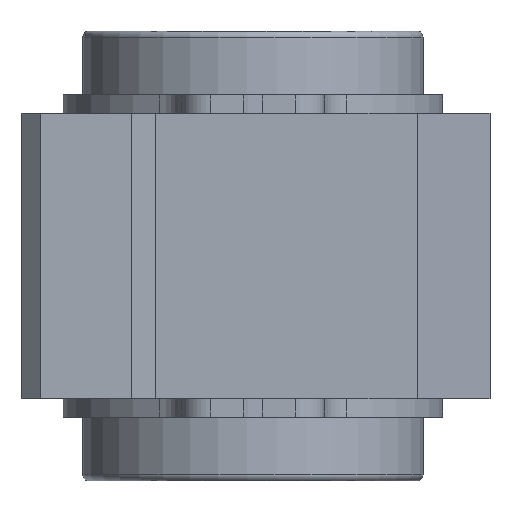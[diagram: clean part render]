
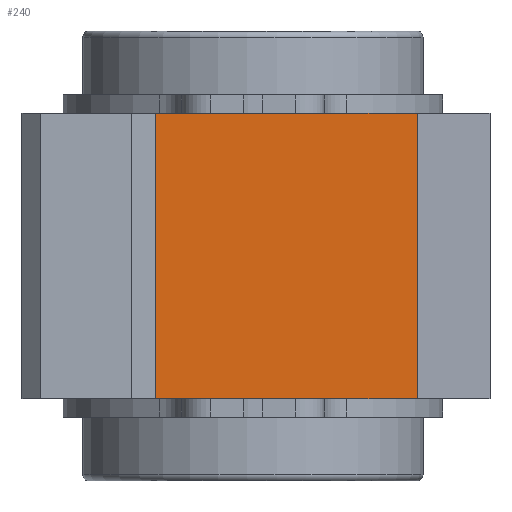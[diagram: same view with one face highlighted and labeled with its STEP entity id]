
A CAD part, left-side view. The second image highlights one B-rep face of the part: STEP entity #240.
In plain terms, the highlighted planar face has unit normal (-1, 0, 0).
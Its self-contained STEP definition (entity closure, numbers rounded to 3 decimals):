
#240=ADVANCED_FACE('',(#343),#344,.F.);
#343=FACE_OUTER_BOUND('',#522,.T.);
#344=PLANE('',#523);
#522=EDGE_LOOP('',(#827,#828,#829,#830));
#523=AXIS2_PLACEMENT_3D('',#831,#832,#833);
#827=ORIENTED_EDGE('',*,*,#1219,.T.);
#828=ORIENTED_EDGE('',*,*,#1241,.F.);
#829=ORIENTED_EDGE('',*,*,#1188,.F.);
#830=ORIENTED_EDGE('',*,*,#1242,.T.);
#831=CARTESIAN_POINT('',(-23.0,8.0,11.75));
#832=DIRECTION('',(1.0,0.0,0.0));
#833=DIRECTION('',(0.0,1.0,0.0));
#1188=EDGE_CURVE('',#1355,#1357,#1358,.T.);
#1219=EDGE_CURVE('',#1418,#1416,#1419,.T.);
#1241=EDGE_CURVE('',#1357,#1416,#1449,.T.);
#1242=EDGE_CURVE('',#1355,#1418,#1450,.T.);
#1355=VERTEX_POINT('',#1636);
#1357=VERTEX_POINT('',#1639);
#1358=LINE('',#1640,#1641);
#1416=VERTEX_POINT('',#1727);
#1418=VERTEX_POINT('',#1730);
#1419=LINE('',#1731,#1732);
#1449=LINE('',#1778,#1779);
#1450=LINE('',#1780,#1781);
#1636=CARTESIAN_POINT('',(-23.0,8.0,11.75));
#1639=CARTESIAN_POINT('',(-23.0,-13.5,11.75));
#1640=CARTESIAN_POINT('',(-23.0,8.0,11.75));
#1641=VECTOR('',#1990,1.0);
#1727=CARTESIAN_POINT('',(-23.0,-13.5,-11.75));
#1730=CARTESIAN_POINT('',(-23.0,8.0,-11.75));
#1731=CARTESIAN_POINT('',(-23.0,8.0,-11.75));
#1732=VECTOR('',#2023,1.0);
#1778=CARTESIAN_POINT('',(-23.0,-13.5,11.75));
#1779=VECTOR('',#2055,1.0);
#1780=CARTESIAN_POINT('',(-23.0,8.0,11.75));
#1781=VECTOR('',#2056,1.0);
#1990=DIRECTION('',(0.0,-1.0,0.0));
#2023=DIRECTION('',(0.0,-1.0,0.0));
#2055=DIRECTION('',(0.0,0.0,-1.0));
#2056=DIRECTION('',(0.0,0.0,-1.0));
